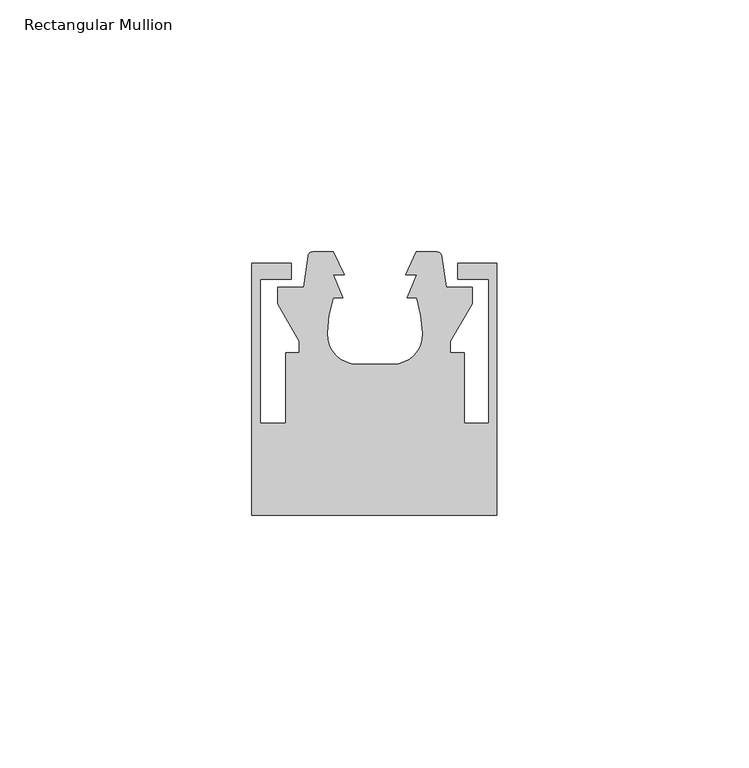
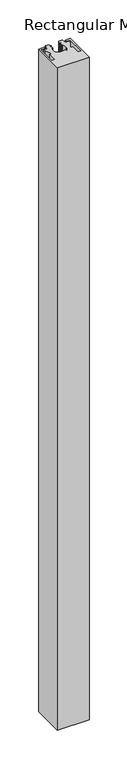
"""IFC4 building model written with IfcOpenShell, lengths in millimetres: member geometry, Rectangular Mullion : Danpal_Airpt."""

from ifc_helpers import new_model, si_unit, point, frame, frame_2d, origin, place, context, project, spatial, polyline, circle_curve, trimmed, segment, composite_curve, outline, extrude, source, transform, mapped, element, save


def rectangular_mullion_0bb142bf(model_context):
    return source(origin(), model_context, "Body", "SweptSolid", [
        extrude(outline(composite_curve([segment(polyline([(-16.6, -16.4), (-16.6, -19.6), (-22.8, -19.6), (-22.8, -48.2), (-17.7185077, -48.2), (-17.7185077, -34.2), (-14.9766663, -34.2), (-14.9766663, -31.9202845), (-19.2732051, -24.478461), (-19.3, -21.2), (-14.115585, -21.2)]), True, "CONTINUOUS"), segment(trimmed(circle_curve(frame_2d((137.1078499, -38.5534788)), 152.215868), [point((-14.115585, -21.2))], [point((-13.2693482, -14.9660083))], False, "CARTESIAN"), True, "CONTINUOUS"), segment(trimmed(circle_curve(frame_2d((-12.3738214, -15.1064765)), 0.9064765), [point((-13.2693482, -14.9660083))], [point((-12.3738214, -14.2))], False, "CARTESIAN"), True, "CONTINUOUS"), segment(polyline([(-12.3738214, -14.2), (-8.2308667, -14.2), (-6.0782659, -18.7006239), (-8.2858815, -18.7006239), (-6.3614697, -23.2699289), (-8.2778534, -23.2699289)]), True, "CONTINUOUS"), segment(trimmed(circle_curve(frame_2d((16.4332098, -31.142799)), 25.9348941), [point((-8.2778534, -23.2699289))], [point((-9.488241, -30.3078647))], True, "CARTESIAN"), True, "CONTINUOUS"), segment(trimmed(circle_curve(frame_2d((-3.5093751, -30.500445)), 5.9819667), [point((-9.488241, -30.3078647))], [point((-3.5093751, -36.4824117))], True, "CARTESIAN"), True, "CONTINUOUS"), segment(polyline([(-3.5093751, -36.4824117), (3.5093751, -36.4824117)]), True, "CONTINUOUS"), segment(trimmed(circle_curve(frame_2d((3.5093751, -30.500445)), 5.9819667), [point((3.5093751, -36.4824117))], [point((9.488241, -30.3078647))], True, "CARTESIAN"), True, "CONTINUOUS"), segment(trimmed(circle_curve(frame_2d((-16.4332098, -31.142799)), 25.9348941), [point((9.488241, -30.3078647))], [point((8.2778534, -23.2699289))], True, "CARTESIAN"), True, "CONTINUOUS"), segment(polyline([(8.2778534, -23.2699289), (6.3614697, -23.2699289), (8.2858815, -18.7006239), (6.0782659, -18.7006239), (8.2308667, -14.2), (12.2262756, -14.2)]), True, "CONTINUOUS"), segment(trimmed(circle_curve(frame_2d((12.2262756, -15.2788845)), 1.0788845), [point((12.2262756, -14.2))], [point((13.2922905, -15.1127399))], False, "CARTESIAN"), True, "CONTINUOUS"), segment(trimmed(circle_curve(frame_2d((-137.1078499, -38.5534788)), 152.215868), [point((13.2922905, -15.1127399))], [point((14.115585, -21.2))], False, "CARTESIAN"), True, "CONTINUOUS"), segment(polyline([(14.115585, -21.2), (19.3, -21.2), (19.2732051, -24.478461), (14.9766663, -31.9202845), (14.9766663, -34.2), (17.7185077, -34.2), (17.7185077, -48.2), (22.6, -48.2), (22.6, -19.6), (16.4, -19.6), (16.4, -16.4), (24.2, -16.4), (24.2, -66.4), (-24.4, -66.4), (-24.4, -16.4), (-16.6, -16.4)]), True, "CONTINUOUS")], self_intersect=False)), frame((0.0, 0.0, -1073.5289119), z_axis=(0.0, 0.0, 1.0), x_axis=(1.0, 0.0, 0.0)), (0.0, 0.0, 1.0), 1073.5289119),
    ])


if __name__ == "__main__":
    model = new_model("IFC4")
    model_context = context("Model", 3, world=origin())
    ifc_project = project(units=[si_unit("LENGTHUNIT", "METRE", prefix="MILLI")], contexts=[model_context])
    site = spatial("IfcSite", under=ifc_project)
    building = spatial("IfcBuilding", under=site)
    placement = place(None, origin())
    rectangular_mullion_shape = rectangular_mullion_0bb142bf(model_context)
    element("IfcMember", 1, ObjectType="Rectangular Mullion : Danpal_Airpt", at=placement, inside=building, context=model_context, shape_type="MappedRepresentation", body=[
        mapped(rectangular_mullion_shape, transform((0.0, 0.0, 0.0), x_axis=(1.0, 0.0, 0.0), y_axis=(0.0, 1.0, 0.0), z_axis=(0.0, 0.0, 1.0))),
    ])
    save(model, "model.ifc")
